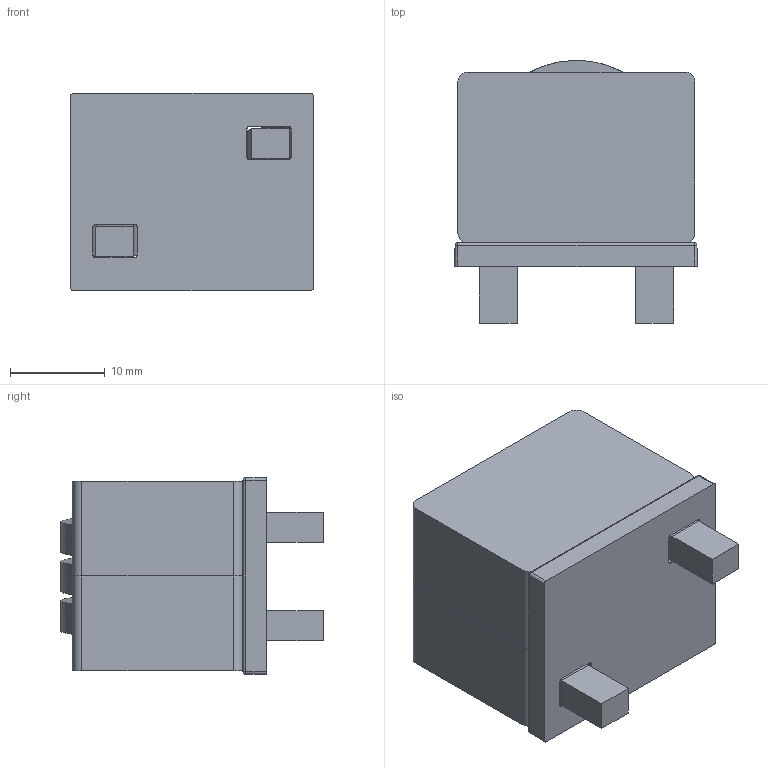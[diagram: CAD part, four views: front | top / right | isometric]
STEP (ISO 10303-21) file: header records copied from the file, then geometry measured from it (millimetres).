
FILE_DESCRIPTION (( 'STEP AP214' ), '1' );
FILE_NAME ('IHDM-1008BC-VA 1.2µH.STEP', '2018-05-18T16:04:30', ( '' ), ( '' ), 'SwSTEP 2.0', 'SolidWorks 2017', '' );
FILE_SCHEMA (( 'AUTOMOTIVE_DESIGN' ));
Length unit declared in the file: inch
Products named in the file (1): IHDM-1008BC-VA 1.2焙
Bounding box: 25.61 x 27.74 x 20.81 mm (x, y, z)
Volume: 8395.2 mm3; surface area: 7024 mm2
Topology: 2 solids, 2 shells, 215 faces, 506 edges, 276 vertices
Faces by surface type: cylinder 88, plane 65, bspline 30, torus 18, sphere 14
Entity records: 7899 total; most frequent: CARTESIAN_POINT 2230, ORIENTED_EDGE 976, DIRECTION 956, EDGE_CURVE 488, AXIS2_PLACEMENT_3D 354, VERTEX_POINT 276, VECTOR 248, LINE 248
